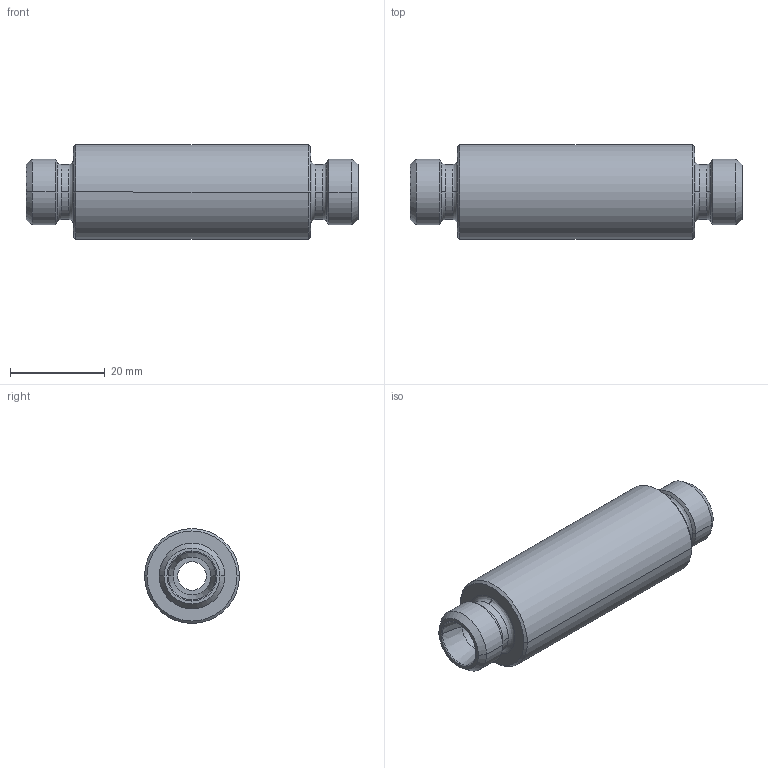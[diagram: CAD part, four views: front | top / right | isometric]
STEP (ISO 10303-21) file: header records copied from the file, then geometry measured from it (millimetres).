
FILE_DESCRIPTION((''),'2;1');
FILE_NAME('105605.stp','2007-10-31T14:16:50',(''),(''),'AutoCAD STEP 2000i','AutoCAD 2000i',', , ');
FILE_SCHEMA(('CONFIG_CONTROL_DESIGN'));
Length unit declared in the file: millimetre
Products named in the file (2): 105605.0; BARRA TONDA#0
Assembly tree (1 placements, depth 2):
  105605.0
    BARRA TONDA#0
Bounding box: 70 x 20 x 20 mm (x, y, z)
Volume: 15911.7 mm3; surface area: 5921.9 mm2
Topology: 1 solids, 1 shells, 50 faces, 120 edges, 76 vertices
Faces by surface type: cone 16, cylinder 16, bspline 8, plane 6, torus 4
Entity records: 1929 total; most frequent: CARTESIAN_POINT 600, DIRECTION 296, ORIENTED_EDGE 240, AXIS2_PLACEMENT_3D 132, EDGE_CURVE 120, CIRCLE 88, VERTEX_POINT 76, EDGE_LOOP 56
